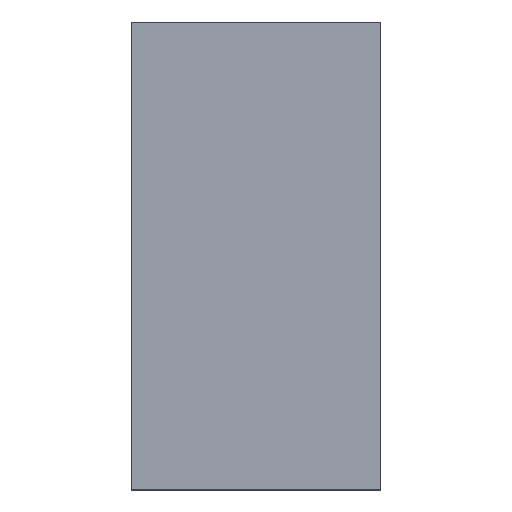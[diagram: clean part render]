
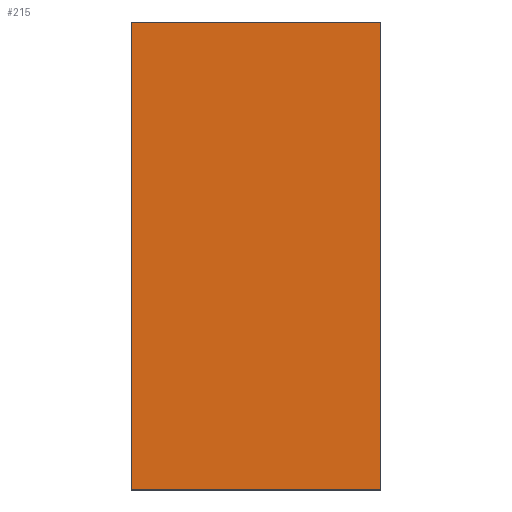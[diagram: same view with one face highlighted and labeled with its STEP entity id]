
A CAD part, top view. The second image highlights one B-rep face of the part: STEP entity #215.
In plain terms, the highlighted planar face has unit normal (0, 0, 1).
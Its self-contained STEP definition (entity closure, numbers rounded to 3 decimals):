
#113=CARTESIAN_POINT('',(-4.85,-9.1,1.95));
#114=VERTEX_POINT('',#113);
#115=CARTESIAN_POINT('',(-4.85,9.1,1.95));
#116=VERTEX_POINT('',#115);
#117=CARTESIAN_POINT('',(-4.85,-9.1,1.95));
#118=DIRECTION('',(0.0,1.0,0.0));
#119=VECTOR('',#118,18.2);
#120=LINE('',#117,#119);
#121=EDGE_CURVE('',#114,#116,#120,.T.);
#144=CARTESIAN_POINT('',(4.85,9.1,1.95));
#145=VERTEX_POINT('',#144);
#146=CARTESIAN_POINT('',(-4.85,9.1,1.95));
#147=DIRECTION('',(1.0,0.0,0.0));
#148=VECTOR('',#147,9.7);
#149=LINE('',#146,#148);
#150=EDGE_CURVE('',#116,#145,#149,.T.);
#168=CARTESIAN_POINT('',(4.85,-9.1,1.95));
#169=VERTEX_POINT('',#168);
#170=CARTESIAN_POINT('',(4.85,9.1,1.95));
#171=DIRECTION('',(0.0,-1.0,0.0));
#172=VECTOR('',#171,18.2);
#173=LINE('',#170,#172);
#174=EDGE_CURVE('',#145,#169,#173,.T.);
#192=CARTESIAN_POINT('',(4.85,-9.1,1.95));
#193=DIRECTION('',(-1.0,0.0,0.0));
#194=VECTOR('',#193,9.7);
#195=LINE('',#192,#194);
#196=EDGE_CURVE('',#169,#114,#195,.T.);
#204=CARTESIAN_POINT('',(0.,0.,1.95));
#205=DIRECTION('',(0.0,0.0,1.0));
#206=DIRECTION('',(1.0,0.0,0.0));
#207=AXIS2_PLACEMENT_3D('',#204,#205,#206);
#208=PLANE('',#207);
#209=ORIENTED_EDGE('',*,*,#121,.F.);
#210=ORIENTED_EDGE('',*,*,#196,.F.);
#211=ORIENTED_EDGE('',*,*,#174,.F.);
#212=ORIENTED_EDGE('',*,*,#150,.F.);
#213=EDGE_LOOP('',(#209,#210,#211,#212));
#214=FACE_OUTER_BOUND('',#213,.T.);
#215=ADVANCED_FACE('',(#214),#208,.T.);
